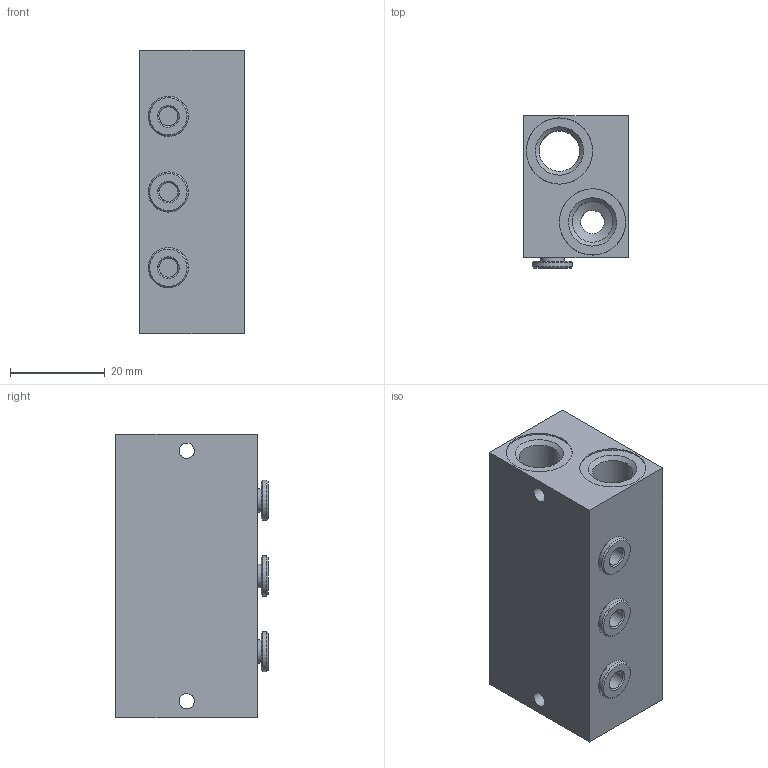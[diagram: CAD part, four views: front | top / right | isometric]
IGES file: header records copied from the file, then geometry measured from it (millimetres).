
Global section: file name: 354_03; native system: Autodesk Inventor 2014; preprocessor: unknown; author: R.Rivoltella; organization: Pneumax S.p.A.; date: 20161003.105204; units: millimetre
Bounding box: 22 x 32.25 x 60 mm (x, y, z)
Volume: 33154.9 mm3; surface area: 11706.6 mm2
Topology: 1 solids, 1 shells, 75 faces, 212 edges, 154 vertices
Faces by surface type: bspline 75
